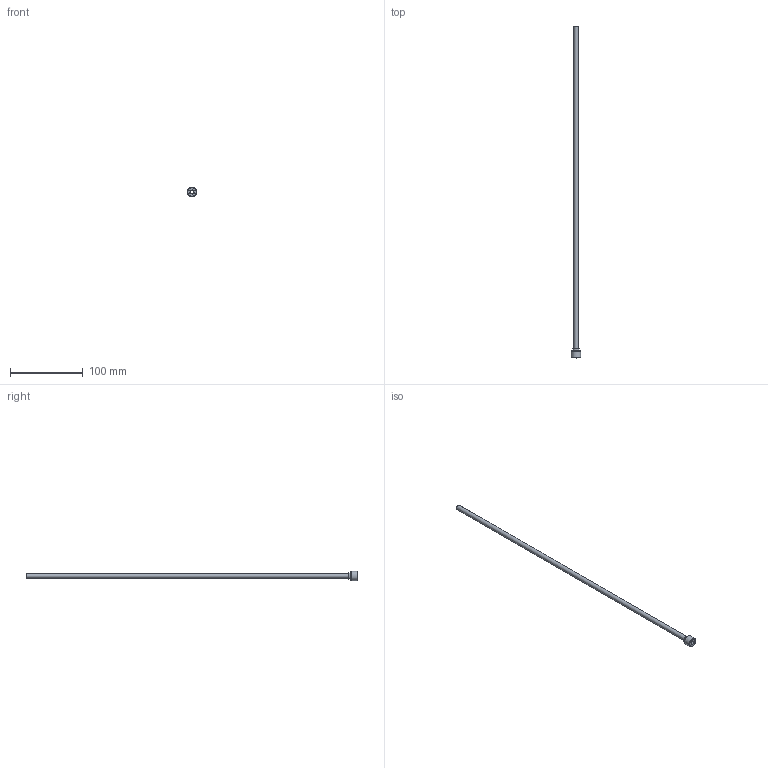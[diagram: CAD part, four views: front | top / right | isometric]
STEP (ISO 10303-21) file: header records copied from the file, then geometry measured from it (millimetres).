
FILE_DESCRIPTION(/* description */ (''),/* implementation_level */ '2;1');
FILE_NAME(/* name */ 'C:/Users/drich/Desktop/PT14-250-18 v1.step',/* time_stamp */ '2019-12-27T15:08:47-06:00',/* author */ (''),/* organization */ (''),/* preprocessor_version */ 'ST-DEVELOPER v18',/* originating_system */ 'Autodesk Translation Framework v8.12.0.6',/* authorisation */ '');
FILE_SCHEMA (('AUTOMOTIVE_DESIGN { 1 0 10303 214 3 1 1 }'));
Length unit declared in the file: inch
Products named in the file (1): PT14-250-18
Bounding box: 13.03 x 457.2 x 13.03 mm (x, y, z)
Volume: 3249.6 mm3; surface area: 17942.7 mm2
Topology: 1 solids, 1 shells, 19 faces, 48 edges, 34 vertices
Faces by surface type: plane 11, cylinder 4, torus 2, cone 2
Full cylindrical faces by diameter (mm): 5.842 x1, 6.35 x1, 8.712 x1, 13.032 x1
Entity records: 633 total; most frequent: DIRECTION 112, CARTESIAN_POINT 102, ORIENTED_EDGE 96, EDGE_CURVE 48, AXIS2_PLACEMENT_3D 44, VERTEX_POINT 34, CIRCLE 24, EDGE_LOOP 24
